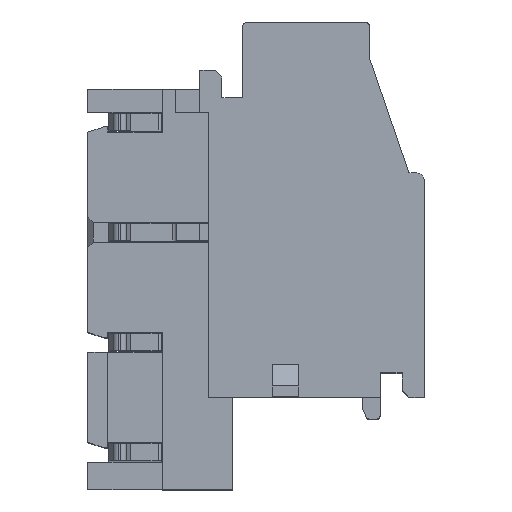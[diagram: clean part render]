
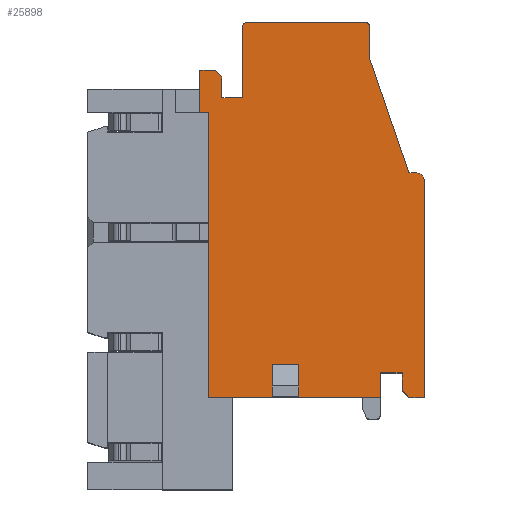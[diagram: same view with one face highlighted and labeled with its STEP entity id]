
A CAD part, top view. The second image highlights one B-rep face of the part: STEP entity #25898.
In plain terms, the highlighted planar face has unit normal (0, 0, 1).
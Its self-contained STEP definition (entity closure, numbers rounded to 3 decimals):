
#1=DIRECTION('',(0.,1.,0.));
#2=VECTOR('',#1,1.5);
#3=CARTESIAN_POINT('',(4.1,0.,10.));
#4=LINE('',#3,#2);
#5=DIRECTION('',(1.,0.,0.));
#6=VECTOR('',#5,1.2);
#7=CARTESIAN_POINT('',(2.9,1.5,10.));
#8=LINE('',#7,#6);
#9=DIRECTION('',(0.,1.,0.));
#10=VECTOR('',#9,1.5);
#11=CARTESIAN_POINT('',(2.9,0.,10.));
#12=LINE('',#11,#10);
#13=DIRECTION('',(1.,0.,0.));
#14=VECTOR('',#13,2.9);
#15=CARTESIAN_POINT('',(0.,0.,10.));
#16=LINE('',#15,#14);
#17=DIRECTION('',(0.,-1.,0.));
#18=VECTOR('',#17,12.95);
#19=CARTESIAN_POINT('',(0.,12.95,10.));
#20=LINE('',#19,#18);
#21=DIRECTION('',(1.,0.,0.));
#22=VECTOR('',#21,0.4);
#23=CARTESIAN_POINT('',(-0.4,12.95,10.));
#24=LINE('',#23,#22);
#25=DIRECTION('',(0.,-1.,0.));
#26=VECTOR('',#25,1.9);
#27=CARTESIAN_POINT('',(-0.4,14.85,10.));
#28=LINE('',#27,#26);
#29=DIRECTION('',(-1.,0.,0.));
#30=VECTOR('',#29,0.7);
#31=CARTESIAN_POINT('',(0.3,14.85,10.));
#32=LINE('',#31,#30);
#33=DIRECTION('',(-0.707,0.707,0.));
#34=VECTOR('',#33,0.424);
#35=CARTESIAN_POINT('',(0.6,14.55,10.));
#36=LINE('',#35,#34);
#37=DIRECTION('',(0.,1.,0.));
#38=VECTOR('',#37,0.95);
#39=CARTESIAN_POINT('',(0.6,13.6,10.));
#40=LINE('',#39,#38);
#41=DIRECTION('',(-1.,0.,0.));
#42=VECTOR('',#41,0.95);
#43=CARTESIAN_POINT('',(1.55,13.6,10.));
#44=LINE('',#43,#42);
#45=DIRECTION('',(0.,-1.,0.));
#46=VECTOR('',#45,3.25);
#47=CARTESIAN_POINT('',(1.55,16.85,10.));
#48=LINE('',#47,#46);
#49=CARTESIAN_POINT('',(1.75,16.85,10.));
#50=DIRECTION('',(0.,0.,1.));
#51=DIRECTION('',(0.,1.,0.));
#52=AXIS2_PLACEMENT_3D('',#49,#50,#51);
#54=DIRECTION('',(-1.,0.,0.));
#55=VECTOR('',#54,5.35);
#56=CARTESIAN_POINT('',(7.1,17.05,10.));
#57=LINE('',#56,#55);
#58=CARTESIAN_POINT('',(7.1,16.85,10.));
#59=DIRECTION('',(0.,0.,1.));
#60=DIRECTION('',(1.,0.,0.));
#61=AXIS2_PLACEMENT_3D('',#58,#59,#60);
#63=DIRECTION('',(0.,1.,0.));
#64=VECTOR('',#63,1.4);
#65=CARTESIAN_POINT('',(7.3,15.45,10.));
#66=LINE('',#65,#64);
#67=DIRECTION('',(-0.324,0.946,0.));
#68=VECTOR('',#67,5.55);
#69=CARTESIAN_POINT('',(9.1,10.2,10.));
#70=LINE('',#69,#68);
#71=DIRECTION('',(-1.,0.,0.));
#72=VECTOR('',#71,0.3);
#73=CARTESIAN_POINT('',(9.4,10.2,10.));
#74=LINE('',#73,#72);
#75=CARTESIAN_POINT('',(9.4,9.8,10.));
#76=DIRECTION('',(0.,0.,1.));
#77=DIRECTION('',(1.,0.,0.));
#78=AXIS2_PLACEMENT_3D('',#75,#76,#77);
#80=DIRECTION('',(0.,1.,0.));
#81=VECTOR('',#80,9.8);
#82=CARTESIAN_POINT('',(9.8,0.,10.));
#83=LINE('',#82,#81);
#84=DIRECTION('',(1.,0.,0.));
#85=VECTOR('',#84,0.7);
#86=CARTESIAN_POINT('',(9.1,0.,10.));
#87=LINE('',#86,#85);
#88=DIRECTION('',(0.707,-0.707,0.));
#89=VECTOR('',#88,0.424);
#90=CARTESIAN_POINT('',(8.8,0.3,10.));
#91=LINE('',#90,#89);
#92=DIRECTION('',(0.,1.,0.));
#93=VECTOR('',#92,0.8);
#94=CARTESIAN_POINT('',(8.8,0.3,10.));
#95=LINE('',#94,#93);
#96=DIRECTION('',(1.,0.,0.));
#97=VECTOR('',#96,1.);
#98=CARTESIAN_POINT('',(7.8,1.1,10.));
#99=LINE('',#98,#97);
#100=DIRECTION('',(0.,1.,0.));
#101=VECTOR('',#100,1.1);
#102=CARTESIAN_POINT('',(7.8,0.,10.));
#103=LINE('',#102,#101);
#104=DIRECTION('',(1.,0.,0.));
#105=VECTOR('',#104,3.7);
#106=CARTESIAN_POINT('',(4.1,0.,10.));
#107=LINE('',#106,#105);
#22055=CARTESIAN_POINT('',(9.8,9.8,10.));
#22056=CARTESIAN_POINT('',(9.4,10.2,10.));
#22057=VERTEX_POINT('',#22055);
#22058=VERTEX_POINT('',#22056);
#22059=CARTESIAN_POINT('',(9.1,10.2,10.));
#22060=VERTEX_POINT('',#22059);
#22061=CARTESIAN_POINT('',(7.3,15.45,10.));
#22062=VERTEX_POINT('',#22061);
#22063=CARTESIAN_POINT('',(7.3,16.85,10.));
#22064=VERTEX_POINT('',#22063);
#22065=CARTESIAN_POINT('',(7.1,17.05,10.));
#22066=VERTEX_POINT('',#22065);
#22067=CARTESIAN_POINT('',(1.75,17.05,10.));
#22068=VERTEX_POINT('',#22067);
#22069=CARTESIAN_POINT('',(1.55,16.85,10.));
#22070=VERTEX_POINT('',#22069);
#22071=CARTESIAN_POINT('',(1.55,13.6,10.));
#22072=VERTEX_POINT('',#22071);
#22073=CARTESIAN_POINT('',(0.6,13.6,10.));
#22074=VERTEX_POINT('',#22073);
#22075=CARTESIAN_POINT('',(-0.4,14.85,10.));
#22076=CARTESIAN_POINT('',(-0.4,12.95,10.));
#22077=VERTEX_POINT('',#22075);
#22078=VERTEX_POINT('',#22076);
#22079=CARTESIAN_POINT('',(0.,12.95,10.));
#22080=VERTEX_POINT('',#22079);
#22503=CARTESIAN_POINT('',(7.8,0.,10.));
#22504=CARTESIAN_POINT('',(7.8,1.1,10.));
#22505=VERTEX_POINT('',#22503);
#22506=VERTEX_POINT('',#22504);
#23237=CARTESIAN_POINT('',(0.6,14.55,10.));
#23238=VERTEX_POINT('',#23237);
#23239=CARTESIAN_POINT('',(0.3,14.85,10.));
#23240=VERTEX_POINT('',#23239);
#23241=CARTESIAN_POINT('',(8.8,0.3,10.));
#23242=CARTESIAN_POINT('',(8.8,1.1,10.));
#23243=VERTEX_POINT('',#23241);
#23244=VERTEX_POINT('',#23242);
#23297=CARTESIAN_POINT('',(4.1,0.,10.));
#23298=CARTESIAN_POINT('',(4.1,1.5,10.));
#23299=VERTEX_POINT('',#23297);
#23300=VERTEX_POINT('',#23298);
#23301=CARTESIAN_POINT('',(2.9,0.,10.));
#23302=CARTESIAN_POINT('',(2.9,1.5,10.));
#23303=VERTEX_POINT('',#23301);
#23304=VERTEX_POINT('',#23302);
#23313=CARTESIAN_POINT('',(0.,0.,10.));
#23314=VERTEX_POINT('',#23313);
#23315=CARTESIAN_POINT('',(9.8,0.,10.));
#23316=VERTEX_POINT('',#23315);
#23429=CARTESIAN_POINT('',(9.1,0.,10.));
#23430=VERTEX_POINT('',#23429);
#25839=CARTESIAN_POINT('',(0.,0.,10.));
#25840=DIRECTION('',(0.,0.,1.));
#25841=DIRECTION('',(1.,0.,0.));
#25842=AXIS2_PLACEMENT_3D('',#25839,#25840,#25841);
#25843=PLANE('',#25842);
#25845=ORIENTED_EDGE('',*,*,#25844,.T.);
#25847=ORIENTED_EDGE('',*,*,#25846,.F.);
#25849=ORIENTED_EDGE('',*,*,#25848,.F.);
#25851=ORIENTED_EDGE('',*,*,#25850,.F.);
#25853=ORIENTED_EDGE('',*,*,#25852,.F.);
#25855=ORIENTED_EDGE('',*,*,#25854,.F.);
#25857=ORIENTED_EDGE('',*,*,#25856,.F.);
#25859=ORIENTED_EDGE('',*,*,#25858,.F.);
#25861=ORIENTED_EDGE('',*,*,#25860,.F.);
#25863=ORIENTED_EDGE('',*,*,#25862,.F.);
#25865=ORIENTED_EDGE('',*,*,#25864,.F.);
#25867=ORIENTED_EDGE('',*,*,#25866,.F.);
#25869=ORIENTED_EDGE('',*,*,#25868,.F.);
#25871=ORIENTED_EDGE('',*,*,#25870,.F.);
#25873=ORIENTED_EDGE('',*,*,#25872,.F.);
#25875=ORIENTED_EDGE('',*,*,#25874,.F.);
#25877=ORIENTED_EDGE('',*,*,#25876,.F.);
#25879=ORIENTED_EDGE('',*,*,#25878,.F.);
#25881=ORIENTED_EDGE('',*,*,#25880,.F.);
#25883=ORIENTED_EDGE('',*,*,#25882,.F.);
#25885=ORIENTED_EDGE('',*,*,#25884,.F.);
#25887=ORIENTED_EDGE('',*,*,#25886,.F.);
#25889=ORIENTED_EDGE('',*,*,#25888,.T.);
#25891=ORIENTED_EDGE('',*,*,#25890,.F.);
#25893=ORIENTED_EDGE('',*,*,#25892,.F.);
#25895=ORIENTED_EDGE('',*,*,#25894,.F.);
#25896=EDGE_LOOP('',(#25845,#25847,#25849,#25851,#25853,#25855,#25857,#25859,
#25861,#25863,#25865,#25867,#25869,#25871,#25873,#25875,#25877,#25879,#25881,
#25883,#25885,#25887,#25889,#25891,#25893,#25895));
#25897=FACE_OUTER_BOUND('',#25896,.F.);
#25898=ADVANCED_FACE('',(#25897),#25843,.T.);
#53=CIRCLE('',#52,0.2);
#62=CIRCLE('',#61,0.2);
#79=CIRCLE('',#78,0.4);
#25844=EDGE_CURVE('',#23299,#23300,#4,.T.);
#25846=EDGE_CURVE('',#23304,#23300,#8,.T.);
#25848=EDGE_CURVE('',#23303,#23304,#12,.T.);
#25850=EDGE_CURVE('',#23314,#23303,#16,.T.);
#25852=EDGE_CURVE('',#22080,#23314,#20,.T.);
#25854=EDGE_CURVE('',#22078,#22080,#24,.T.);
#25856=EDGE_CURVE('',#22077,#22078,#28,.T.);
#25858=EDGE_CURVE('',#23240,#22077,#32,.T.);
#25860=EDGE_CURVE('',#23238,#23240,#36,.T.);
#25862=EDGE_CURVE('',#22074,#23238,#40,.T.);
#25864=EDGE_CURVE('',#22072,#22074,#44,.T.);
#25866=EDGE_CURVE('',#22070,#22072,#48,.T.);
#25868=EDGE_CURVE('',#22068,#22070,#53,.T.);
#25870=EDGE_CURVE('',#22066,#22068,#57,.T.);
#25872=EDGE_CURVE('',#22064,#22066,#62,.T.);
#25874=EDGE_CURVE('',#22062,#22064,#66,.T.);
#25876=EDGE_CURVE('',#22060,#22062,#70,.T.);
#25878=EDGE_CURVE('',#22058,#22060,#74,.T.);
#25880=EDGE_CURVE('',#22057,#22058,#79,.T.);
#25882=EDGE_CURVE('',#23316,#22057,#83,.T.);
#25884=EDGE_CURVE('',#23430,#23316,#87,.T.);
#25886=EDGE_CURVE('',#23243,#23430,#91,.T.);
#25888=EDGE_CURVE('',#23243,#23244,#95,.T.);
#25890=EDGE_CURVE('',#22506,#23244,#99,.T.);
#25892=EDGE_CURVE('',#22505,#22506,#103,.T.);
#25894=EDGE_CURVE('',#23299,#22505,#107,.T.);
